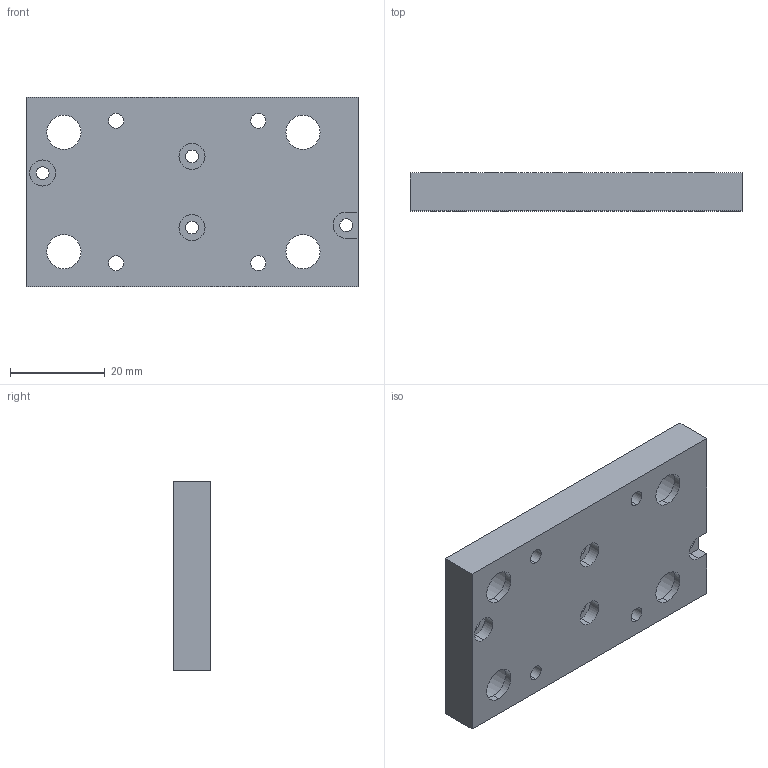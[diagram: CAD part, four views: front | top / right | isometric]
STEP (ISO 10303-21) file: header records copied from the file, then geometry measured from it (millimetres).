
FILE_DESCRIPTION (( 'STEP AP214' ), '1' );
FILE_NAME ('430107-D Adapter Base Plate Table VT-21.STEP', '2015-04-28T16:51:16', ( '' ), ( '' ), 'SwSTEP 2.0', 'SolidWorks 2014', '' );
FILE_SCHEMA (( 'AUTOMOTIVE_DESIGN' ));
Length unit declared in the file: millimetre
Products named in the file (1): 430107-D Adapter Base Plate Table VT-21
Bounding box: 70 x 8 x 40 mm (x, y, z)
Volume: 18309.2 mm3; surface area: 9297.3 mm2
Topology: 1 solids, 1 shells, 143 faces, 352 edges, 203 vertices
Faces by surface type: cylinder 85, cone 38, plane 20
Entity records: 4222 total; most frequent: DIRECTION 772, CARTESIAN_POINT 661, ORIENTED_EDGE 628, AXIS2_PLACEMENT_3D 314, EDGE_CURVE 314, VERTEX_POINT 203, EDGE_LOOP 197, CIRCLE 170
